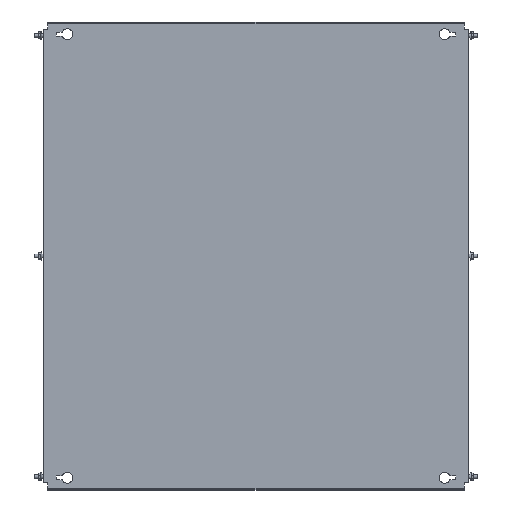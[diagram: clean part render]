
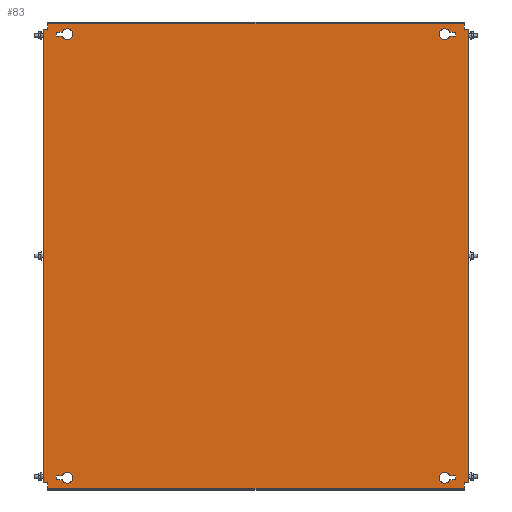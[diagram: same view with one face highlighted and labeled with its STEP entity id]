
A CAD part, top view. The second image highlights one B-rep face of the part: STEP entity #83.
In plain terms, the highlighted planar face has unit normal (0, 0, 1).
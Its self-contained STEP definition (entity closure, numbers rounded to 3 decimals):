
#83 = ADVANCED_FACE('',(#84,#119,#154,#316,#351),#386,.T.);
#84 = FACE_BOUND('',#85,.T.);
#85 = EDGE_LOOP('',(#86,#96,#104,#112));
#86 = ORIENTED_EDGE('',*,*,#87,.T.);
#87 = EDGE_CURVE('',#88,#90,#92,.T.);
#88 = VERTEX_POINT('',#89);
#89 = CARTESIAN_POINT('',(318.393,367.75,2.));
#90 = VERTEX_POINT('',#91);
#91 = CARTESIAN_POINT('',(328.,367.75,2.));
#92 = LINE('',#93,#94);
#93 = CARTESIAN_POINT('',(327.,367.75,2.));
#94 = VECTOR('',#95,1.);
#95 = DIRECTION('',(1.,0.,0.));
#96 = ORIENTED_EDGE('',*,*,#97,.T.);
#97 = EDGE_CURVE('',#90,#98,#100,.T.);
#98 = VERTEX_POINT('',#99);
#99 = CARTESIAN_POINT('',(328.,361.25,2.));
#100 = LINE('',#101,#102);
#101 = CARTESIAN_POINT('',(328.,367.75,2.));
#102 = VECTOR('',#103,1.);
#103 = DIRECTION('',(0.,-1.,0.));
#104 = ORIENTED_EDGE('',*,*,#105,.T.);
#105 = EDGE_CURVE('',#98,#106,#108,.T.);
#106 = VERTEX_POINT('',#107);
#107 = CARTESIAN_POINT('',(318.393,361.25,2.));
#108 = LINE('',#109,#110);
#109 = CARTESIAN_POINT('',(327.,361.25,2.));
#110 = VECTOR('',#111,1.);
#111 = DIRECTION('',(-1.,0.,0.));
#112 = ORIENTED_EDGE('',*,*,#113,.T.);
#113 = EDGE_CURVE('',#106,#88,#114,.T.);
#114 = CIRCLE('',#115,9.);
#115 = AXIS2_PLACEMENT_3D('',#116,#117,#118);
#116 = CARTESIAN_POINT('',(310.,364.5,2.));
#117 = DIRECTION('',(0.,0.,-1.));
#118 = DIRECTION('',(1.,0.,0.));
#119 = FACE_BOUND('',#120,.T.);
#120 = EDGE_LOOP('',(#121,#131,#139,#147));
#121 = ORIENTED_EDGE('',*,*,#122,.T.);
#122 = EDGE_CURVE('',#123,#125,#127,.T.);
#123 = VERTEX_POINT('',#124);
#124 = CARTESIAN_POINT('',(-318.393,-367.75,2.));
#125 = VERTEX_POINT('',#126);
#126 = CARTESIAN_POINT('',(-328.,-367.75,2.));
#127 = LINE('',#128,#129);
#128 = CARTESIAN_POINT('',(-327.,-367.75,2.));
#129 = VECTOR('',#130,1.);
#130 = DIRECTION('',(-1.,0.,0.));
#131 = ORIENTED_EDGE('',*,*,#132,.T.);
#132 = EDGE_CURVE('',#125,#133,#135,.T.);
#133 = VERTEX_POINT('',#134);
#134 = CARTESIAN_POINT('',(-328.,-361.25,2.));
#135 = LINE('',#136,#137);
#136 = CARTESIAN_POINT('',(-328.,-367.75,2.));
#137 = VECTOR('',#138,1.);
#138 = DIRECTION('',(0.,1.,0.));
#139 = ORIENTED_EDGE('',*,*,#140,.T.);
#140 = EDGE_CURVE('',#133,#141,#143,.T.);
#141 = VERTEX_POINT('',#142);
#142 = CARTESIAN_POINT('',(-318.393,-361.25,2.));
#143 = LINE('',#144,#145);
#144 = CARTESIAN_POINT('',(-327.,-361.25,2.));
#145 = VECTOR('',#146,1.);
#146 = DIRECTION('',(1.,-0.,-0.));
#147 = ORIENTED_EDGE('',*,*,#148,.T.);
#148 = EDGE_CURVE('',#141,#123,#149,.T.);
#149 = CIRCLE('',#150,9.);
#150 = AXIS2_PLACEMENT_3D('',#151,#152,#153);
#151 = CARTESIAN_POINT('',(-310.,-364.5,2.));
#152 = DIRECTION('',(0.,0.,-1.));
#153 = DIRECTION('',(-1.,0.,0.));
#154 = FACE_BOUND('',#155,.T.);
#155 = EDGE_LOOP('',(#156,#166,#174,#182,#190,#198,#206,#214,#222,#230,
    #238,#246,#254,#262,#270,#278,#286,#294,#302,#310));
#156 = ORIENTED_EDGE('',*,*,#157,.F.);
#157 = EDGE_CURVE('',#158,#160,#162,.T.);
#158 = VERTEX_POINT('',#159);
#159 = CARTESIAN_POINT('',(-347.4,372.5,2.));
#160 = VERTEX_POINT('',#161);
#161 = CARTESIAN_POINT('',(-342.,372.5,2.));
#162 = LINE('',#163,#164);
#163 = CARTESIAN_POINT('',(-348.,372.5,2.));
#164 = VECTOR('',#165,1.);
#165 = DIRECTION('',(1.,0.,-0.));
#166 = ORIENTED_EDGE('',*,*,#167,.T.);
#167 = EDGE_CURVE('',#158,#168,#170,.T.);
#168 = VERTEX_POINT('',#169);
#169 = CARTESIAN_POINT('',(-350.,372.5,2.));
#170 = LINE('',#171,#172);
#171 = CARTESIAN_POINT('',(-347.4,372.5,2.));
#172 = VECTOR('',#173,1.);
#173 = DIRECTION('',(-1.,0.,0.));
#174 = ORIENTED_EDGE('',*,*,#175,.F.);
#175 = EDGE_CURVE('',#176,#168,#178,.T.);
#176 = VERTEX_POINT('',#177);
#177 = CARTESIAN_POINT('',(-350.,-372.5,2.));
#178 = LINE('',#179,#180);
#179 = CARTESIAN_POINT('',(-350.,-382.5,2.));
#180 = VECTOR('',#181,1.);
#181 = DIRECTION('',(0.,1.,-0.));
#182 = ORIENTED_EDGE('',*,*,#183,.F.);
#183 = EDGE_CURVE('',#184,#176,#186,.T.);
#184 = VERTEX_POINT('',#185);
#185 = CARTESIAN_POINT('',(-347.4,-372.5,2.));
#186 = LINE('',#187,#188);
#187 = CARTESIAN_POINT('',(-342.,-372.5,2.));
#188 = VECTOR('',#189,1.);
#189 = DIRECTION('',(-1.,-0.,-0.));
#190 = ORIENTED_EDGE('',*,*,#191,.T.);
#191 = EDGE_CURVE('',#184,#192,#194,.T.);
#192 = VERTEX_POINT('',#193);
#193 = CARTESIAN_POINT('',(-342.,-372.5,2.));
#194 = LINE('',#195,#196);
#195 = CARTESIAN_POINT('',(-348.,-372.5,2.));
#196 = VECTOR('',#197,1.);
#197 = DIRECTION('',(1.,0.,-0.));
#198 = ORIENTED_EDGE('',*,*,#199,.T.);
#199 = EDGE_CURVE('',#192,#200,#202,.T.);
#200 = VERTEX_POINT('',#201);
#201 = CARTESIAN_POINT('',(-342.,-381.9,2.));
#202 = LINE('',#203,#204);
#203 = CARTESIAN_POINT('',(-342.,382.5,2.));
#204 = VECTOR('',#205,1.);
#205 = DIRECTION('',(0.,-1.,0.));
#206 = ORIENTED_EDGE('',*,*,#207,.T.);
#207 = EDGE_CURVE('',#200,#208,#210,.T.);
#208 = VERTEX_POINT('',#209);
#209 = CARTESIAN_POINT('',(-342.,-382.5,2.));
#210 = LINE('',#211,#212);
#211 = CARTESIAN_POINT('',(-342.,-381.9,2.));
#212 = VECTOR('',#213,1.);
#213 = DIRECTION('',(-0.,-1.,-0.));
#214 = ORIENTED_EDGE('',*,*,#215,.T.);
#215 = EDGE_CURVE('',#208,#216,#218,.T.);
#216 = VERTEX_POINT('',#217);
#217 = CARTESIAN_POINT('',(342.,-382.5,2.));
#218 = LINE('',#219,#220);
#219 = CARTESIAN_POINT('',(342.,-382.5,2.));
#220 = VECTOR('',#221,1.);
#221 = DIRECTION('',(1.,0.,0.));
#222 = ORIENTED_EDGE('',*,*,#223,.F.);
#223 = EDGE_CURVE('',#224,#216,#226,.T.);
#224 = VERTEX_POINT('',#225);
#225 = CARTESIAN_POINT('',(342.,-381.9,2.));
#226 = LINE('',#227,#228);
#227 = CARTESIAN_POINT('',(342.,-382.5,2.));
#228 = VECTOR('',#229,1.);
#229 = DIRECTION('',(0.,-1.,0.));
#230 = ORIENTED_EDGE('',*,*,#231,.T.);
#231 = EDGE_CURVE('',#224,#232,#234,.T.);
#232 = VERTEX_POINT('',#233);
#233 = CARTESIAN_POINT('',(342.,-372.5,2.));
#234 = LINE('',#235,#236);
#235 = CARTESIAN_POINT('',(342.,382.5,2.));
#236 = VECTOR('',#237,1.);
#237 = DIRECTION('',(0.,1.,-0.));
#238 = ORIENTED_EDGE('',*,*,#239,.F.);
#239 = EDGE_CURVE('',#240,#232,#242,.T.);
#240 = VERTEX_POINT('',#241);
#241 = CARTESIAN_POINT('',(347.4,-372.5,2.));
#242 = LINE('',#243,#244);
#243 = CARTESIAN_POINT('',(348.,-372.5,2.));
#244 = VECTOR('',#245,1.);
#245 = DIRECTION('',(-1.,0.,-0.));
#246 = ORIENTED_EDGE('',*,*,#247,.T.);
#247 = EDGE_CURVE('',#240,#248,#250,.T.);
#248 = VERTEX_POINT('',#249);
#249 = CARTESIAN_POINT('',(350.,-372.5,2.));
#250 = LINE('',#251,#252);
#251 = CARTESIAN_POINT('',(347.4,-372.5,2.));
#252 = VECTOR('',#253,1.);
#253 = DIRECTION('',(1.,-0.,0.));
#254 = ORIENTED_EDGE('',*,*,#255,.F.);
#255 = EDGE_CURVE('',#256,#248,#258,.T.);
#256 = VERTEX_POINT('',#257);
#257 = CARTESIAN_POINT('',(350.,372.5,2.));
#258 = LINE('',#259,#260);
#259 = CARTESIAN_POINT('',(350.,-382.5,2.));
#260 = VECTOR('',#261,1.);
#261 = DIRECTION('',(0.,-1.,-0.));
#262 = ORIENTED_EDGE('',*,*,#263,.F.);
#263 = EDGE_CURVE('',#264,#256,#266,.T.);
#264 = VERTEX_POINT('',#265);
#265 = CARTESIAN_POINT('',(347.4,372.5,2.));
#266 = LINE('',#267,#268);
#267 = CARTESIAN_POINT('',(-342.,372.5,2.));
#268 = VECTOR('',#269,1.);
#269 = DIRECTION('',(1.,-0.,0.));
#270 = ORIENTED_EDGE('',*,*,#271,.T.);
#271 = EDGE_CURVE('',#264,#272,#274,.T.);
#272 = VERTEX_POINT('',#273);
#273 = CARTESIAN_POINT('',(342.,372.5,2.));
#274 = LINE('',#275,#276);
#275 = CARTESIAN_POINT('',(348.,372.5,2.));
#276 = VECTOR('',#277,1.);
#277 = DIRECTION('',(-1.,0.,-0.));
#278 = ORIENTED_EDGE('',*,*,#279,.T.);
#279 = EDGE_CURVE('',#272,#280,#282,.T.);
#280 = VERTEX_POINT('',#281);
#281 = CARTESIAN_POINT('',(342.,381.9,2.));
#282 = LINE('',#283,#284);
#283 = CARTESIAN_POINT('',(342.,382.5,2.));
#284 = VECTOR('',#285,1.);
#285 = DIRECTION('',(0.,1.,-0.));
#286 = ORIENTED_EDGE('',*,*,#287,.T.);
#287 = EDGE_CURVE('',#280,#288,#290,.T.);
#288 = VERTEX_POINT('',#289);
#289 = CARTESIAN_POINT('',(342.,382.5,2.));
#290 = LINE('',#291,#292);
#291 = CARTESIAN_POINT('',(342.,381.9,2.));
#292 = VECTOR('',#293,1.);
#293 = DIRECTION('',(-0.,1.,-0.));
#294 = ORIENTED_EDGE('',*,*,#295,.T.);
#295 = EDGE_CURVE('',#288,#296,#298,.T.);
#296 = VERTEX_POINT('',#297);
#297 = CARTESIAN_POINT('',(-342.,382.5,2.));
#298 = LINE('',#299,#300);
#299 = CARTESIAN_POINT('',(-342.,382.5,2.));
#300 = VECTOR('',#301,1.);
#301 = DIRECTION('',(-1.,0.,0.));
#302 = ORIENTED_EDGE('',*,*,#303,.F.);
#303 = EDGE_CURVE('',#304,#296,#306,.T.);
#304 = VERTEX_POINT('',#305);
#305 = CARTESIAN_POINT('',(-342.,381.9,2.));
#306 = LINE('',#307,#308);
#307 = CARTESIAN_POINT('',(-342.,-382.5,2.));
#308 = VECTOR('',#309,1.);
#309 = DIRECTION('',(0.,1.,-0.));
#310 = ORIENTED_EDGE('',*,*,#311,.T.);
#311 = EDGE_CURVE('',#304,#160,#312,.T.);
#312 = LINE('',#313,#314);
#313 = CARTESIAN_POINT('',(-342.,382.5,2.));
#314 = VECTOR('',#315,1.);
#315 = DIRECTION('',(0.,-1.,0.));
#316 = FACE_BOUND('',#317,.T.);
#317 = EDGE_LOOP('',(#318,#328,#336,#344));
#318 = ORIENTED_EDGE('',*,*,#319,.F.);
#319 = EDGE_CURVE('',#320,#322,#324,.T.);
#320 = VERTEX_POINT('',#321);
#321 = CARTESIAN_POINT('',(328.,-361.25,2.));
#322 = VERTEX_POINT('',#323);
#323 = CARTESIAN_POINT('',(318.393,-361.25,2.));
#324 = LINE('',#325,#326);
#325 = CARTESIAN_POINT('',(318.393,-361.25,2.));
#326 = VECTOR('',#327,1.);
#327 = DIRECTION('',(-1.,0.,0.));
#328 = ORIENTED_EDGE('',*,*,#329,.F.);
#329 = EDGE_CURVE('',#330,#320,#332,.T.);
#330 = VERTEX_POINT('',#331);
#331 = CARTESIAN_POINT('',(328.,-367.75,2.));
#332 = LINE('',#333,#334);
#333 = CARTESIAN_POINT('',(328.,-361.25,2.));
#334 = VECTOR('',#335,1.);
#335 = DIRECTION('',(0.,1.,0.));
#336 = ORIENTED_EDGE('',*,*,#337,.F.);
#337 = EDGE_CURVE('',#338,#330,#340,.T.);
#338 = VERTEX_POINT('',#339);
#339 = CARTESIAN_POINT('',(318.393,-367.75,2.));
#340 = LINE('',#341,#342);
#341 = CARTESIAN_POINT('',(327.,-367.75,2.));
#342 = VECTOR('',#343,1.);
#343 = DIRECTION('',(1.,0.,0.));
#344 = ORIENTED_EDGE('',*,*,#345,.F.);
#345 = EDGE_CURVE('',#322,#338,#346,.T.);
#346 = CIRCLE('',#347,9.);
#347 = AXIS2_PLACEMENT_3D('',#348,#349,#350);
#348 = CARTESIAN_POINT('',(310.,-364.5,2.));
#349 = DIRECTION('',(0.,-0.,1.));
#350 = DIRECTION('',(1.,0.,0.));
#351 = FACE_BOUND('',#352,.T.);
#352 = EDGE_LOOP('',(#353,#363,#371,#379));
#353 = ORIENTED_EDGE('',*,*,#354,.F.);
#354 = EDGE_CURVE('',#355,#357,#359,.T.);
#355 = VERTEX_POINT('',#356);
#356 = CARTESIAN_POINT('',(-328.,361.25,2.));
#357 = VERTEX_POINT('',#358);
#358 = CARTESIAN_POINT('',(-318.393,361.25,2.));
#359 = LINE('',#360,#361);
#360 = CARTESIAN_POINT('',(-318.393,361.25,2.));
#361 = VECTOR('',#362,1.);
#362 = DIRECTION('',(1.,0.,0.));
#363 = ORIENTED_EDGE('',*,*,#364,.F.);
#364 = EDGE_CURVE('',#365,#355,#367,.T.);
#365 = VERTEX_POINT('',#366);
#366 = CARTESIAN_POINT('',(-328.,367.75,2.));
#367 = LINE('',#368,#369);
#368 = CARTESIAN_POINT('',(-328.,361.25,2.));
#369 = VECTOR('',#370,1.);
#370 = DIRECTION('',(0.,-1.,0.));
#371 = ORIENTED_EDGE('',*,*,#372,.F.);
#372 = EDGE_CURVE('',#373,#365,#375,.T.);
#373 = VERTEX_POINT('',#374);
#374 = CARTESIAN_POINT('',(-318.393,367.75,2.));
#375 = LINE('',#376,#377);
#376 = CARTESIAN_POINT('',(-327.,367.75,2.));
#377 = VECTOR('',#378,1.);
#378 = DIRECTION('',(-1.,0.,0.));
#379 = ORIENTED_EDGE('',*,*,#380,.F.);
#380 = EDGE_CURVE('',#357,#373,#381,.T.);
#381 = CIRCLE('',#382,9.);
#382 = AXIS2_PLACEMENT_3D('',#383,#384,#385);
#383 = CARTESIAN_POINT('',(-310.,364.5,2.));
#384 = DIRECTION('',(0.,-0.,1.));
#385 = DIRECTION('',(-1.,0.,0.));
#386 = PLANE('',#387);
#387 = AXIS2_PLACEMENT_3D('',#388,#389,#390);
#388 = CARTESIAN_POINT('',(-342.,-382.5,2.));
#389 = DIRECTION('',(-0.,0.,1.));
#390 = DIRECTION('',(1.,0.,0.));
